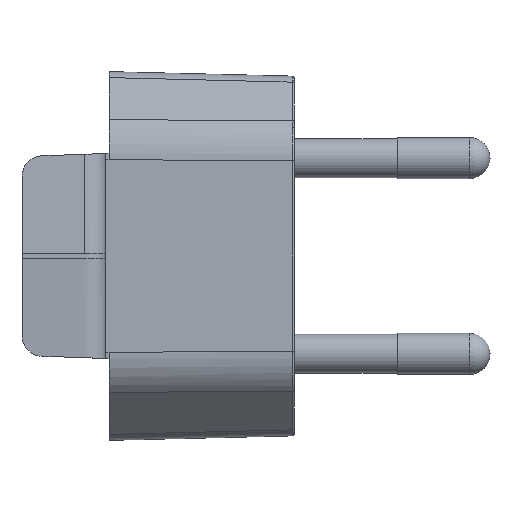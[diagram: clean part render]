
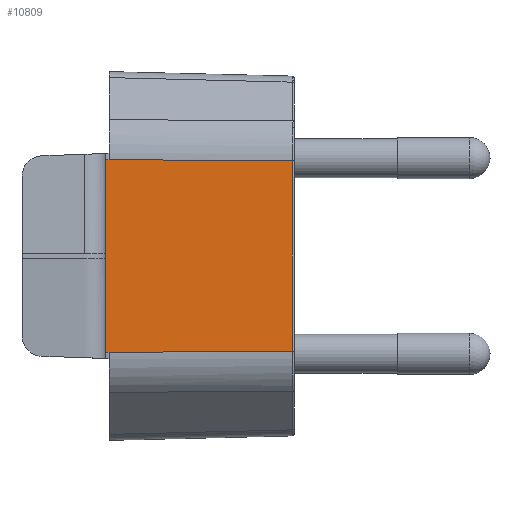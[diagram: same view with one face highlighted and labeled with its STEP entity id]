
A CAD part, left-side view. The second image highlights one B-rep face of the part: STEP entity #10809.
In plain terms, the highlighted planar face has unit normal (-1, -0.018, 0).
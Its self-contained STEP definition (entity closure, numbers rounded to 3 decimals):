
#638=FACE_OUTER_BOUND('',#1233,.T.);
#1233=EDGE_LOOP('',(#7538,#7539,#7540,#7541,#7542,#7543));
#2153=LINE('',#16048,#3440);
#2163=LINE('',#16072,#3450);
#2164=LINE('',#16074,#3451);
#2165=LINE('',#16075,#3452);
#2166=LINE('',#16077,#3453);
#2167=LINE('',#16078,#3454);
#3440=VECTOR('',#12688,18.721);
#3450=VECTOR('',#12704,18.464);
#3451=VECTOR('',#12705,17.807);
#3452=VECTOR('',#12706,0.35);
#3453=VECTOR('',#12707,0.35);
#3454=VECTOR('',#12708,17.807);
#4721=VERTEX_POINT('',#16046);
#4722=VERTEX_POINT('',#16047);
#4732=VERTEX_POINT('',#16070);
#4733=VERTEX_POINT('',#16071);
#4734=VERTEX_POINT('',#16073);
#4735=VERTEX_POINT('',#16076);
#5835=EDGE_CURVE('',#4721,#4722,#2153,.T.);
#5847=EDGE_CURVE('',#4732,#4733,#2163,.T.);
#5848=EDGE_CURVE('',#4732,#4734,#2164,.T.);
#5849=EDGE_CURVE('',#4734,#4721,#2165,.T.);
#5850=EDGE_CURVE('',#4722,#4735,#2166,.T.);
#5851=EDGE_CURVE('',#4733,#4735,#2167,.T.);
#7538=ORIENTED_EDGE('',*,*,#5847,.F.);
#7539=ORIENTED_EDGE('',*,*,#5848,.T.);
#7540=ORIENTED_EDGE('',*,*,#5849,.T.);
#7541=ORIENTED_EDGE('',*,*,#5835,.T.);
#7542=ORIENTED_EDGE('',*,*,#5850,.T.);
#7543=ORIENTED_EDGE('',*,*,#5851,.F.);
#10384=PLANE('',#11436);
#10809=ADVANCED_FACE('',(#638),#10384,.T.);
#11436=AXIS2_PLACEMENT_3D('',#16069,#12702,#12703);
#12688=DIRECTION('',(0.,0.,-1.));
#12702=DIRECTION('center_axis',(-1.,-0.017,
0.));
#12703=DIRECTION('ref_axis',(0.017,-1.,0.));
#12704=DIRECTION('',(0.,0.,-1.));
#12705=DIRECTION('',(-0.017,1.,0.007));
#12706=DIRECTION('',(-0.017,1.,0.));
#12707=DIRECTION('',(0.017,-1.,0.));
#12708=DIRECTION('',(-0.017,1.,-0.007));
#16046=CARTESIAN_POINT('',(-21.106,-12.7,9.36));
#16047=CARTESIAN_POINT('',(-21.106,-12.7,-9.36));
#16048=CARTESIAN_POINT('',(-21.106,-12.7,-24.329));
#16069=CARTESIAN_POINT('Origin',(-21.1,-13.05,-12.345));
#16070=CARTESIAN_POINT('',(-20.789,-30.853,9.232));
#16071=CARTESIAN_POINT('',(-20.789,-30.853,-9.232));
#16072=CARTESIAN_POINT('',(-20.789,-30.853,9.483));
#16073=CARTESIAN_POINT('',(-21.1,-13.05,9.361));
#16074=CARTESIAN_POINT('',(-20.789,-30.853,9.232));
#16075=CARTESIAN_POINT('',(-21.1,-13.05,9.361));
#16076=CARTESIAN_POINT('',(-21.1,-13.05,-9.36));
#16077=CARTESIAN_POINT('',(-21.106,-12.7,-9.36));
#16078=CARTESIAN_POINT('',(-21.848,29.784,-9.67));
